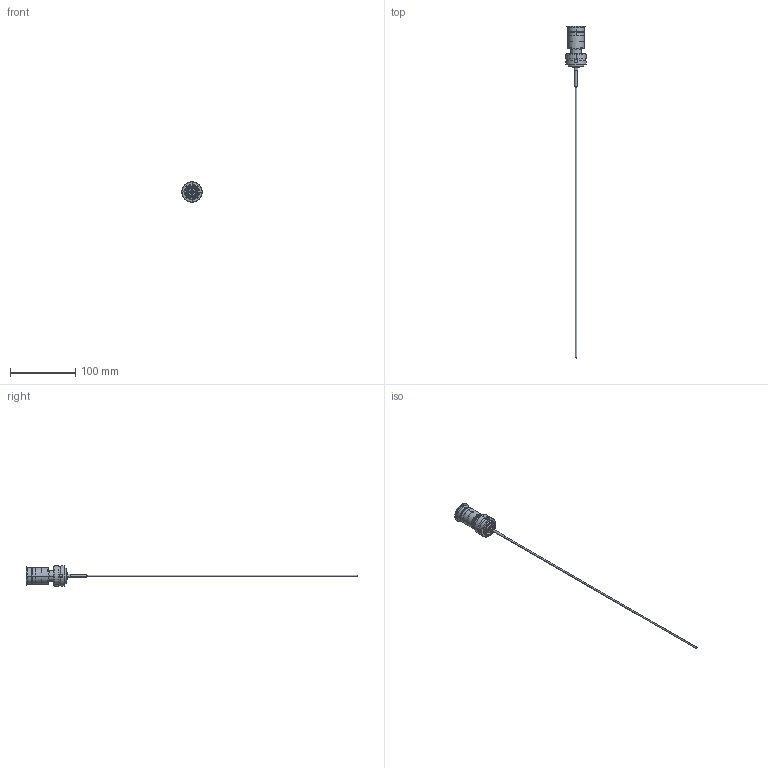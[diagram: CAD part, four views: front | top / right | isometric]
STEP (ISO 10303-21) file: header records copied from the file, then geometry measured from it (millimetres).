
FILE_DESCRIPTION((''),'2;1');
FILE_NAME('E18500-SEMPLIF_ASM','2013-04-18T',('genny.garda'),('Thermoplay S.p.A.'),'PRO/ENGINEER BY PARAMETRIC TECHNOLOGY CORPORATION, 2007390','PRO/ENGINEER BY PARAMETRIC TECHNOLOGY CORPORATION, 2007390','');
FILE_SCHEMA(('CONFIG_CONTROL_DESIGN'));
Length unit declared in the file: millimetre
Products named in the file (5): E18500_S; E18500_S_BOCC_GUIDA; E18500_S_RONDELLA; E18014-500; E18500-SEMPLIF_ASM
Assembly tree (4 placements, depth 2):
  E18500-SEMPLIF_ASM
    E18500_S
    E18500_S_BOCC_GUIDA
    E18500_S_RONDELLA
    E18014-500
Bounding box: 31 x 509.1 x 31 mm (x, y, z)
Volume: 26384.7 mm3; surface area: 26109.8 mm2
Topology: 10 solids, 15 shells, 359 faces, 820 edges, 486 vertices
Faces by surface type: cylinder 134, cone 90, plane 73, torus 36, revolution 24, sphere 2
Entity records: 11997 total; most frequent: CARTESIAN_POINT 3558, DIRECTION 1770, ORIENTED_EDGE 1622, EDGE_CURVE 812, AXIS2_PLACEMENT_3D 746, VERTEX_POINT 486, EDGE_LOOP 401, CIRCLE 398
